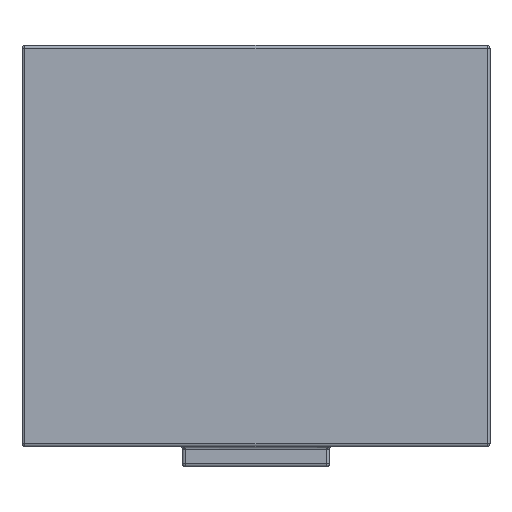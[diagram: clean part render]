
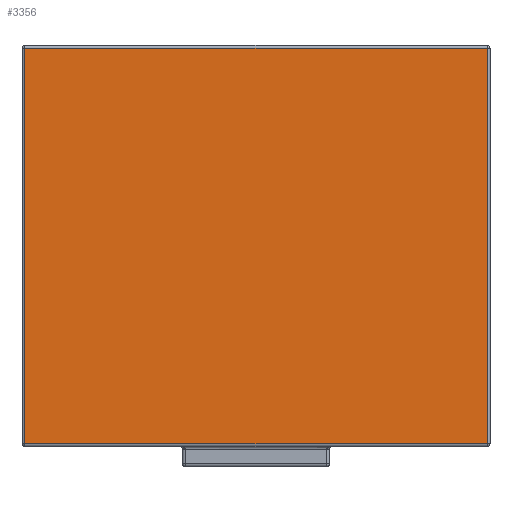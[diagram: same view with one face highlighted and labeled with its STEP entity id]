
A CAD part, front view. The second image highlights one B-rep face of the part: STEP entity #3356.
In plain terms, the highlighted planar face has unit normal (0, -1, 0).
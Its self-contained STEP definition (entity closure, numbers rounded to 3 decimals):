
#2760=CARTESIAN_POINT('',(34.8,0.0,0.2));
#2761=VERTEX_POINT('',#2760);
#2806=CARTESIAN_POINT('',(0.2,0.0,0.2));
#2807=VERTEX_POINT('',#2806);
#2831=CARTESIAN_POINT('',(34.8,0.0,0.2));
#2832=DIRECTION('',(-1.0,0.0,0.0));
#2833=VECTOR('',#2832,34.6);
#2834=LINE('',#2831,#2833);
#2835=EDGE_CURVE('',#2761,#2807,#2834,.T.);
#2852=CARTESIAN_POINT('',(34.8,0.0,29.8));
#2853=VERTEX_POINT('',#2852);
#2886=CARTESIAN_POINT('',(34.8,0.0,29.8));
#2887=DIRECTION('',(0.0,0.0,-1.0));
#2888=VECTOR('',#2887,29.6);
#2889=LINE('',#2886,#2888);
#2890=EDGE_CURVE('',#2853,#2761,#2889,.T.);
#2916=CARTESIAN_POINT('',(0.2,0.0,29.8));
#2917=VERTEX_POINT('',#2916);
#2948=CARTESIAN_POINT('',(0.2,0.0,0.2));
#2949=DIRECTION('',(0.0,0.0,1.0));
#2950=VECTOR('',#2949,29.6);
#2951=LINE('',#2948,#2950);
#2952=EDGE_CURVE('',#2807,#2917,#2951,.T.);
#2963=CARTESIAN_POINT('',(0.2,0.0,29.8));
#2964=DIRECTION('',(1.0,0.0,0.0));
#2965=VECTOR('',#2964,34.6);
#2966=LINE('',#2963,#2965);
#2967=EDGE_CURVE('',#2917,#2853,#2966,.T.);
#3345=CARTESIAN_POINT('',(35.,0.0,0.0));
#3346=DIRECTION('',(0.0,-1.0,0.0));
#3347=DIRECTION('',(0.0,0.0,-1.0));
#3348=AXIS2_PLACEMENT_3D('',#3345,#3346,#3347);
#3349=PLANE('',#3348);
#3350=ORIENTED_EDGE('',*,*,#2835,.F.);
#3351=ORIENTED_EDGE('',*,*,#2890,.F.);
#3352=ORIENTED_EDGE('',*,*,#2967,.F.);
#3353=ORIENTED_EDGE('',*,*,#2952,.F.);
#3354=EDGE_LOOP('',(#3350,#3351,#3352,#3353));
#3355=FACE_OUTER_BOUND('',#3354,.T.);
#3356=ADVANCED_FACE('',(#3355),#3349,.T.);
